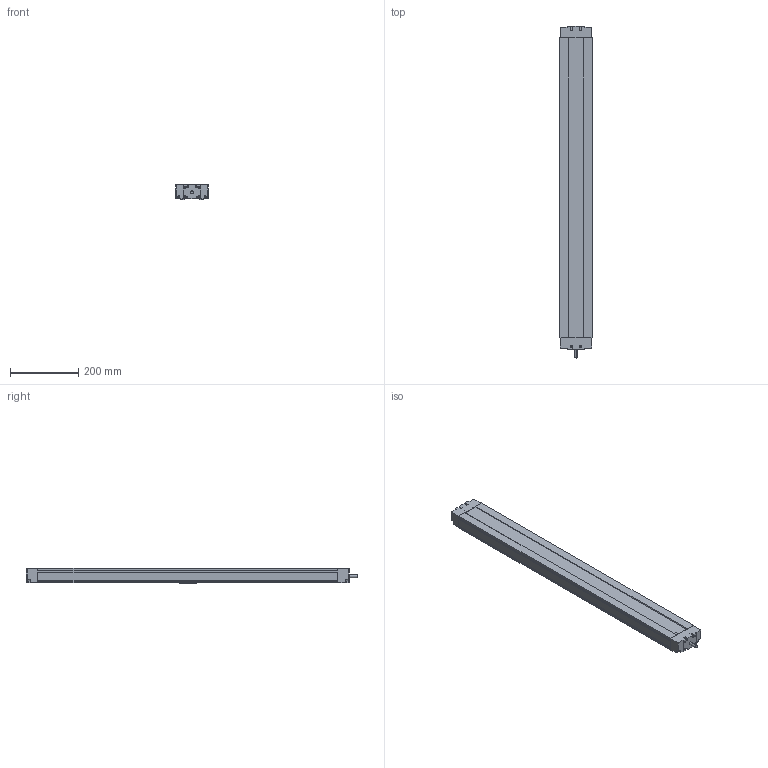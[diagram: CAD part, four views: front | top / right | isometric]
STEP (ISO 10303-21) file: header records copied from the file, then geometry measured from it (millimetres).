
FILE_DESCRIPTION (( 'STEP AP203' ), '1' );
FILE_NAME ('MSY94B-800-LL1205-P7.STEP', '2013-11-02T03:25:40', ( '微软用户' ), ( '微软中国' ), 'SwSTEP 2.0', 'SolidWorks 2010', '' );
FILE_SCHEMA (( 'CONFIG_CONTROL_DESIGN' ));
Length unit declared in the file: millimetre
Products named in the file (1): MSY94B-800-LL1205-P7
Bounding box: 94 x 975 x 44.5 mm (x, y, z)
Volume: 2962621.5 mm3; surface area: 560672.2 mm2
Topology: 1 solids, 1 shells, 312 faces, 856 edges, 544 vertices
Faces by surface type: plane 222, cylinder 74, cone 16
Entity records: 9777 total; most frequent: CARTESIAN_POINT 1697, ORIENTED_EDGE 1680, DIRECTION 1622, EDGE_CURVE 840, VECTOR 684, LINE 684, VERTEX_POINT 544, AXIS2_PLACEMENT_3D 469
